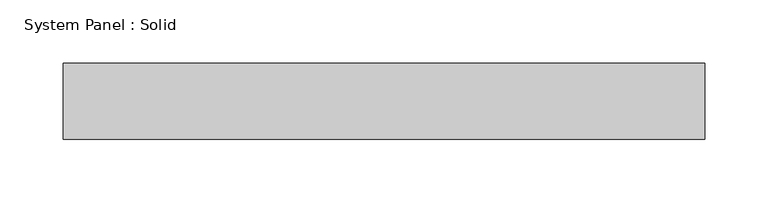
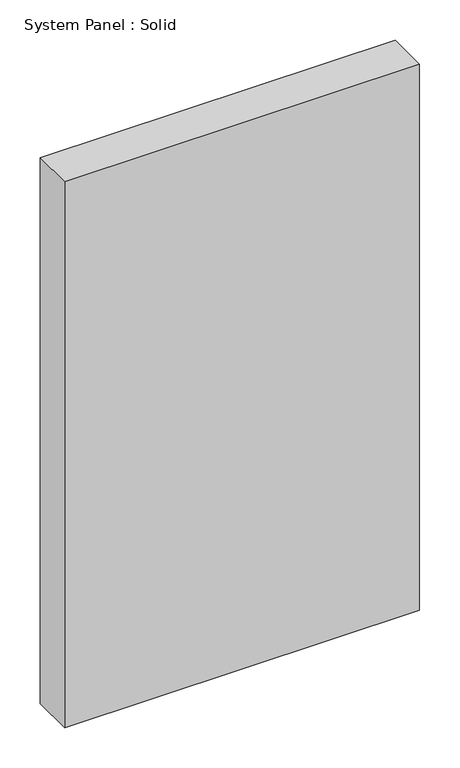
"""IFC4 building model written with IfcOpenShell, lengths in millimetres: plate geometry, System Panel : Solid."""

from ifc_helpers import new_model, si_unit, origin, origin_with_axes, place, context, project, spatial, polyline, outline, extrude, source, transform, mapped, element, save


def system_panel_solid_591e5d25(model_context):
    return source(origin(), model_context, "Body", "SweptSolid", [
        extrude(outline(polyline([(253.5416666, -10.5), (-253.5416666, -10.5), (-253.5416666, 49.5), (253.5416666, 49.5), (253.5416666, -10.5)])), origin_with_axes(), (0.0, 0.0, 1.0), 825.0),
    ])


if __name__ == "__main__":
    model = new_model("IFC4")
    model_context = context("Model", 3, world=origin())
    ifc_project = project(units=[si_unit("LENGTHUNIT", "METRE", prefix="MILLI")], contexts=[model_context])
    site = spatial("IfcSite", under=ifc_project)
    building = spatial("IfcBuilding", under=site)
    placement = place(None, origin())
    system_panel_solid_shape = system_panel_solid_591e5d25(model_context)
    element("IfcPlate", 1, ObjectType="System Panel : Solid", at=placement, inside=building, context=model_context, shape_type="MappedRepresentation", body=[
        mapped(system_panel_solid_shape, transform((0.0, 0.0, 0.0), x_axis=(1.0, 0.0, 0.0), y_axis=(0.0, 1.0, 0.0), z_axis=(0.0, 0.0, 1.0))),
    ])
    save(model, "model.ifc")
